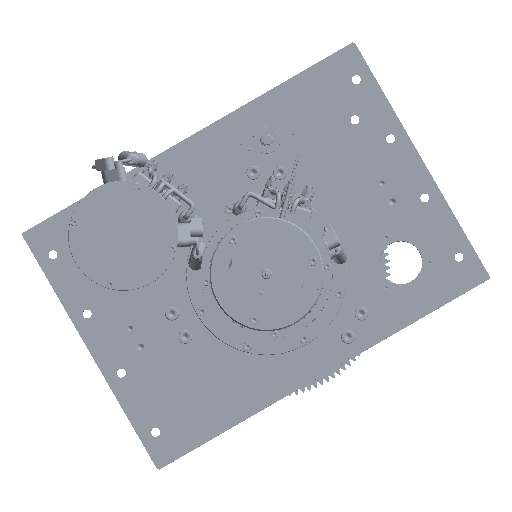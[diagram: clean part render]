
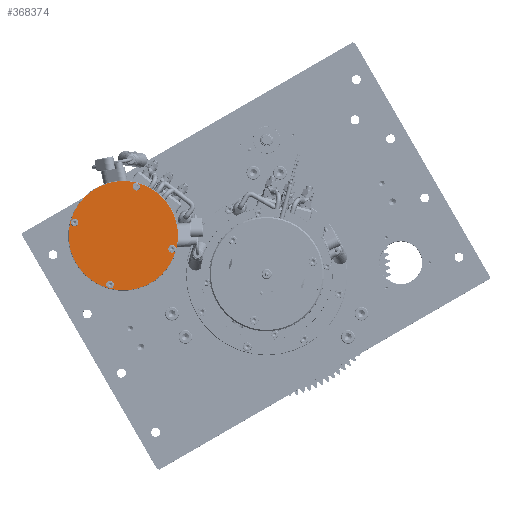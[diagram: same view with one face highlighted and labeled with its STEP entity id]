
A CAD part, top view. The second image highlights one B-rep face of the part: STEP entity #368374.
In plain terms, the highlighted planar face has unit normal (0, 0, 1).
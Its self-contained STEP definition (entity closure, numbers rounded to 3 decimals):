
#13792=PLANE('',#399856);
#88143=FACE_BOUND('',#126416,.T.);
#88144=FACE_BOUND('',#126417,.T.);
#88145=FACE_BOUND('',#126418,.T.);
#88146=FACE_BOUND('',#126419,.T.);
#105443=FACE_OUTER_BOUND('',#126415,.T.);
#126415=EDGE_LOOP('',(#318478));
#126416=EDGE_LOOP('',(#318479));
#126417=EDGE_LOOP('',(#318480));
#126418=EDGE_LOOP('',(#318481));
#126419=EDGE_LOOP('',(#318482));
#142591=CIRCLE('',#399733,4.5);
#142623=CIRCLE('',#399768,4.5);
#142655=CIRCLE('',#399803,4.5);
#142687=CIRCLE('',#399838,4.5);
#142695=CIRCLE('',#399854,64.);
#173627=VERTEX_POINT('',#660588);
#173629=VERTEX_POINT('',#660627);
#173631=VERTEX_POINT('',#660666);
#173633=VERTEX_POINT('',#660705);
#173639=VERTEX_POINT('',#660731);
#222548=EDGE_CURVE('',#173627,#173627,#142591,.T.);
#222582=EDGE_CURVE('',#173629,#173629,#142623,.T.);
#222616=EDGE_CURVE('',#173631,#173631,#142655,.T.);
#222650=EDGE_CURVE('',#173633,#173633,#142687,.T.);
#222662=EDGE_CURVE('',#173639,#173639,#142695,.T.);
#318478=ORIENTED_EDGE('',*,*,#222662,.F.);
#318479=ORIENTED_EDGE('',*,*,#222548,.T.);
#318480=ORIENTED_EDGE('',*,*,#222582,.T.);
#318481=ORIENTED_EDGE('',*,*,#222616,.T.);
#318482=ORIENTED_EDGE('',*,*,#222650,.T.);
#368374=ADVANCED_FACE('',(#105443,#88143,#88144,#88145,#88146),#13792,.T.);
#399733=AXIS2_PLACEMENT_3D('',#660589,#489240,#489241);
#399768=AXIS2_PLACEMENT_3D('',#660628,#489312,#489313);
#399803=AXIS2_PLACEMENT_3D('',#660667,#489384,#489385);
#399838=AXIS2_PLACEMENT_3D('',#660706,#489456,#489457);
#399854=AXIS2_PLACEMENT_3D('',#660732,#489492,#489493);
#399856=AXIS2_PLACEMENT_3D('',#660734,#489496,#489497);
#489240=DIRECTION('center_axis',(0.,0.,
-1.));
#489241=DIRECTION('ref_axis',(0.259,0.966,0.));
#489312=DIRECTION('center_axis',(0.,0.,
-1.));
#489313=DIRECTION('ref_axis',(0.966,-0.259,0.));
#489384=DIRECTION('center_axis',(0.,0.,
-1.));
#489385=DIRECTION('ref_axis',(-0.966,0.259,0.));
#489456=DIRECTION('center_axis',(0.,0.,
-1.));
#489457=DIRECTION('ref_axis',(-0.259,-0.966,0.));
#489492=DIRECTION('center_axis',(0.,0.,
-1.));
#489493=DIRECTION('ref_axis',(0.966,-0.259,0.));
#489496=DIRECTION('center_axis',(0.,0.,
1.));
#489497=DIRECTION('ref_axis',(-0.966,0.259,0.));
#660588=CARTESIAN_POINT('',(-226.225,55.958,313.5));
#660589=CARTESIAN_POINT('Origin',(-225.061,60.305,313.5));
#660627=CARTESIAN_POINT('',(-156.841,103.366,313.5));
#660628=CARTESIAN_POINT('Origin',(-152.495,102.201,313.5));
#660666=CARTESIAN_POINT('',(-178.818,-13.426,313.5));
#660667=CARTESIAN_POINT('Origin',(-183.165,-12.261,313.5));
#660705=CARTESIAN_POINT('',(-109.434,33.981,313.5));
#660706=CARTESIAN_POINT('Origin',(-110.599,29.635,313.5));
#660731=CARTESIAN_POINT('',(-106.01,28.405,313.5));
#660732=CARTESIAN_POINT('Origin',(-167.83,44.97,313.5));
#660734=CARTESIAN_POINT('Origin',(-198.981,53.317,313.5));
